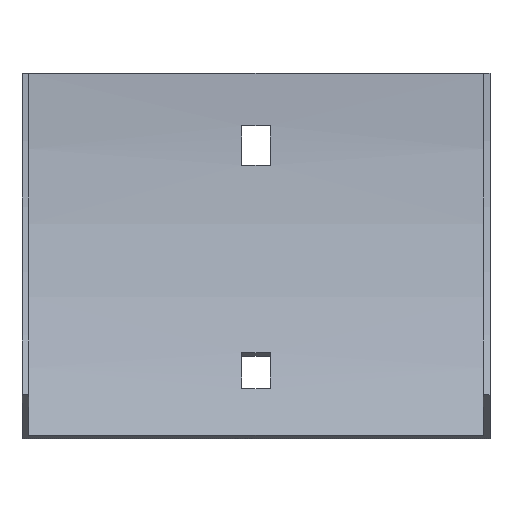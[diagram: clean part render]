
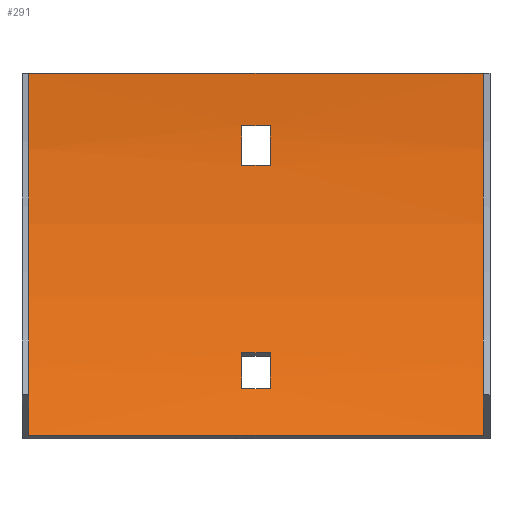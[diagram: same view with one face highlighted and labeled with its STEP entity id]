
A CAD part, front view. The second image highlights one B-rep face of the part: STEP entity #291.
In plain terms, the highlighted cylindrical face has radius 165.5 mm (diameter 331 mm), a partial arc.
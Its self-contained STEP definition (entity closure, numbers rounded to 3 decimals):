
#3 = DIRECTION ( 'NONE',  ( -1., 0., 0. ) ) ;
#34 = ORIENTED_EDGE ( 'NONE', *, *, #520, .F. ) ;
#35 = CARTESIAN_POINT ( 'NONE',  ( -3.25, -18.05, -72.14 ) ) ;
#37 = AXIS2_PLACEMENT_3D ( 'NONE', #413, #112, #359 ) ;
#39 = EDGE_CURVE ( 'NONE', #491, #535, #566, .T. ) ;
#40 = VERTEX_POINT ( 'NONE', #404 ) ;
#44 = FACE_BOUND ( 'NONE', #113, .T. ) ;
#49 = FACE_OUTER_BOUND ( 'NONE', #456, .T. ) ;
#52 = EDGE_LOOP ( 'NONE', ( #499, #34, #401, #595 ) ) ;
#55 = VECTOR ( 'NONE', #272, 1000. ) ;
#86 = DIRECTION ( 'NONE',  ( 0., 0., 1. ) ) ;
#88 = AXIS2_PLACEMENT_3D ( 'NONE', #229, #425, #269 ) ;
#90 = ORIENTED_EDGE ( 'NONE', *, *, #94, .F. ) ;
#94 = EDGE_CURVE ( 'NONE', #513, #491, #544, .T. ) ;
#100 = EDGE_CURVE ( 'NONE', #352, #580, #292, .T. ) ;
#112 = DIRECTION ( 'NONE',  ( -1., 0., 0. ) ) ;
#113 = EDGE_LOOP ( 'NONE', ( #403, #586, #334, #339 ) ) ;
#114 = EDGE_CURVE ( 'NONE', #244, #352, #407, .T. ) ;
#119 = CIRCLE ( 'NONE', #378, 165.5 ) ;
#125 = EDGE_CURVE ( 'NONE', #513, #40, #119, .T. ) ;
#130 = ORIENTED_EDGE ( 'NONE', *, *, #39, .F. ) ;
#131 = DIRECTION ( 'NONE',  ( -1., 0., 0. ) ) ;
#133 = EDGE_CURVE ( 'NONE', #480, #551, #311, .T. ) ;
#137 = CARTESIAN_POINT ( 'NONE',  ( 53.5, -1.936, -12. ) ) ;
#163 = CARTESIAN_POINT ( 'NONE',  ( 52., -1.5, 0. ) ) ;
#170 = CARTESIAN_POINT ( 'NONE',  ( 52., -167., 0. ) ) ;
#172 = CARTESIAN_POINT ( 'NONE',  ( 53.5, -167., 0. ) ) ;
#179 = CARTESIAN_POINT ( 'NONE',  ( 53.5, -18.05, -72.14 ) ) ;
#184 = ORIENTED_EDGE ( 'NONE', *, *, #252, .T. ) ;
#187 = CARTESIAN_POINT ( 'NONE',  ( -3.25, -1.936, -12. ) ) ;
#203 = EDGE_CURVE ( 'NONE', #218, #244, #271, .T. ) ;
#206 = CARTESIAN_POINT ( 'NONE',  ( -3.25, -14.331, -63.895 ) ) ;
#211 = DIRECTION ( 'NONE',  ( 0., 0., 1. ) ) ;
#215 = CARTESIAN_POINT ( 'NONE',  ( 53.5, -2.838, -21. ) ) ;
#218 = VERTEX_POINT ( 'NONE', #35 ) ;
#226 = LINE ( 'NONE', #179, #598 ) ;
#229 = CARTESIAN_POINT ( 'NONE',  ( -3.25, -167., 0. ) ) ;
#235 = CARTESIAN_POINT ( 'NONE',  ( 52., -23.673, -82.75 ) ) ;
#243 = AXIS2_PLACEMENT_3D ( 'NONE', #366, #318, #464 ) ;
#244 = VERTEX_POINT ( 'NONE', #206 ) ;
#252 = EDGE_CURVE ( 'NONE', #40, #535, #405, .T. ) ;
#258 = DIRECTION ( 'NONE',  ( 1., 0., 0. ) ) ;
#267 = CYLINDRICAL_SURFACE ( 'NONE', #559, 165.5 ) ;
#269 = DIRECTION ( 'NONE',  ( 0., 0., 1. ) ) ;
#271 = CIRCLE ( 'NONE', #243, 165.5 ) ;
#272 = DIRECTION ( 'NONE',  ( -1., 0., 0. ) ) ;
#273 = AXIS2_PLACEMENT_3D ( 'NONE', #374, #331, #479 ) ;
#278 = CARTESIAN_POINT ( 'NONE',  ( -52., -23.673, -82.75 ) ) ;
#279 = VECTOR ( 'NONE', #505, 1000. ) ;
#284 = ORIENTED_EDGE ( 'NONE', *, *, #125, .T. ) ;
#291 = ADVANCED_FACE ( 'NONE', ( #588, #49, #44 ), #267, .F. ) ;
#292 = CIRCLE ( 'NONE', #37, 165.5 ) ;
#297 = CARTESIAN_POINT ( 'NONE',  ( 52., -23.673, -82.75 ) ) ;
#299 = DIRECTION ( 'NONE',  ( -1., 0., 0. ) ) ;
#303 = CIRCLE ( 'NONE', #88, 165.5 ) ;
#311 = LINE ( 'NONE', #215, #279 ) ;
#317 = EDGE_CURVE ( 'NONE', #572, #480, #303, .T. ) ;
#318 = DIRECTION ( 'NONE',  ( 1., 0., 0. ) ) ;
#328 = CARTESIAN_POINT ( 'NONE',  ( -52., -1.5, 0. ) ) ;
#331 = DIRECTION ( 'NONE',  ( 1., 0., 0. ) ) ;
#334 = ORIENTED_EDGE ( 'NONE', *, *, #114, .T. ) ;
#338 = EDGE_CURVE ( 'NONE', #580, #218, #226, .T. ) ;
#339 = ORIENTED_EDGE ( 'NONE', *, *, #100, .T. ) ;
#346 = VECTOR ( 'NONE', #415, 1000. ) ;
#352 = VERTEX_POINT ( 'NONE', #564 ) ;
#359 = DIRECTION ( 'NONE',  ( 0., 0., 1. ) ) ;
#366 = CARTESIAN_POINT ( 'NONE',  ( -3.25, -167., 0. ) ) ;
#374 = CARTESIAN_POINT ( 'NONE',  ( 3.25, -167., 0. ) ) ;
#378 = AXIS2_PLACEMENT_3D ( 'NONE', #170, #258, #562 ) ;
#399 = AXIS2_PLACEMENT_3D ( 'NONE', #452, #493, #211 ) ;
#401 = ORIENTED_EDGE ( 'NONE', *, *, #533, .F. ) ;
#403 = ORIENTED_EDGE ( 'NONE', *, *, #338, .T. ) ;
#404 = CARTESIAN_POINT ( 'NONE',  ( 52., -1.5, 0. ) ) ;
#405 = LINE ( 'NONE', #163, #441 ) ;
#407 = LINE ( 'NONE', #462, #517 ) ;
#413 = CARTESIAN_POINT ( 'NONE',  ( 3.25, -167., 0. ) ) ;
#415 = DIRECTION ( 'NONE',  ( -1., 0., 0. ) ) ;
#421 = CARTESIAN_POINT ( 'NONE',  ( 3.25, -2.838, -21. ) ) ;
#425 = DIRECTION ( 'NONE',  ( -1., 0., 0. ) ) ;
#441 = VECTOR ( 'NONE', #299, 1000. ) ;
#452 = CARTESIAN_POINT ( 'NONE',  ( -52., -167., 0. ) ) ;
#456 = EDGE_LOOP ( 'NONE', ( #130, #90, #284, #184 ) ) ;
#462 = CARTESIAN_POINT ( 'NONE',  ( 53.5, -14.331, -63.895 ) ) ;
#464 = DIRECTION ( 'NONE',  ( 0., 0., -1. ) ) ;
#476 = LINE ( 'NONE', #137, #55 ) ;
#479 = DIRECTION ( 'NONE',  ( 0., 0., -1. ) ) ;
#480 = VERTEX_POINT ( 'NONE', #531 ) ;
#491 = VERTEX_POINT ( 'NONE', #278 ) ;
#493 = DIRECTION ( 'NONE',  ( 1., 0., 0. ) ) ;
#499 = ORIENTED_EDGE ( 'NONE', *, *, #317, .F. ) ;
#505 = DIRECTION ( 'NONE',  ( 1., 0., 0. ) ) ;
#513 = VERTEX_POINT ( 'NONE', #235 ) ;
#517 = VECTOR ( 'NONE', #600, 1000. ) ;
#520 = EDGE_CURVE ( 'NONE', #543, #572, #476, .T. ) ;
#531 = CARTESIAN_POINT ( 'NONE',  ( -3.25, -2.838, -21. ) ) ;
#533 = EDGE_CURVE ( 'NONE', #551, #543, #560, .T. ) ;
#535 = VERTEX_POINT ( 'NONE', #328 ) ;
#543 = VERTEX_POINT ( 'NONE', #571 ) ;
#544 = LINE ( 'NONE', #297, #346 ) ;
#551 = VERTEX_POINT ( 'NONE', #421 ) ;
#559 = AXIS2_PLACEMENT_3D ( 'NONE', #172, #131, #86 ) ;
#560 = CIRCLE ( 'NONE', #273, 165.5 ) ;
#562 = DIRECTION ( 'NONE',  ( 0., 0., 1. ) ) ;
#564 = CARTESIAN_POINT ( 'NONE',  ( 3.25, -14.331, -63.895 ) ) ;
#566 = CIRCLE ( 'NONE', #399, 165.5 ) ;
#571 = CARTESIAN_POINT ( 'NONE',  ( 3.25, -1.936, -12. ) ) ;
#572 = VERTEX_POINT ( 'NONE', #187 ) ;
#574 = CARTESIAN_POINT ( 'NONE',  ( 3.25, -18.05, -72.14 ) ) ;
#580 = VERTEX_POINT ( 'NONE', #574 ) ;
#586 = ORIENTED_EDGE ( 'NONE', *, *, #203, .T. ) ;
#588 = FACE_BOUND ( 'NONE', #52, .T. ) ;
#595 = ORIENTED_EDGE ( 'NONE', *, *, #133, .F. ) ;
#598 = VECTOR ( 'NONE', #3, 1000. ) ;
#600 = DIRECTION ( 'NONE',  ( 1., 0., 0. ) ) ;
